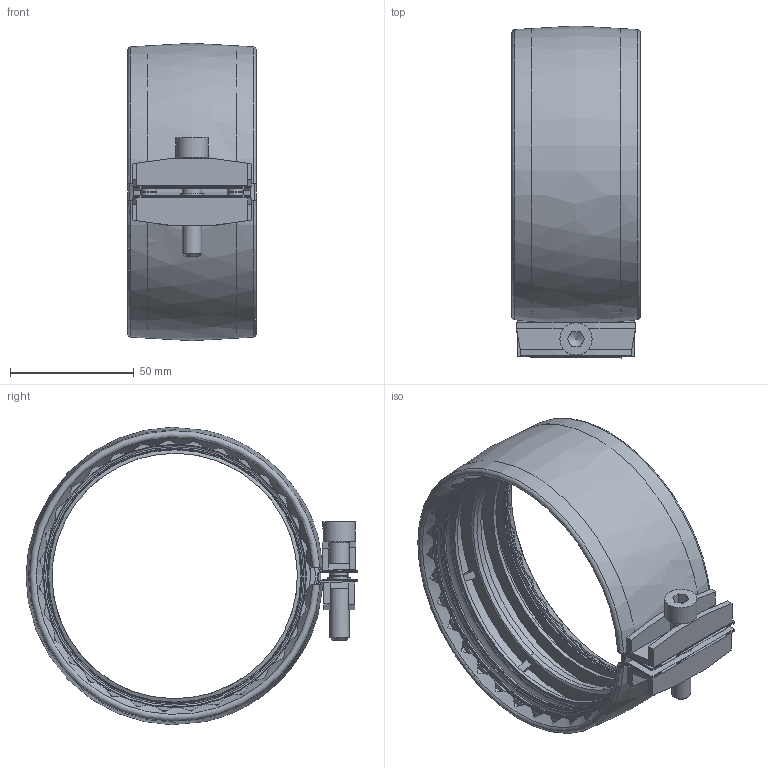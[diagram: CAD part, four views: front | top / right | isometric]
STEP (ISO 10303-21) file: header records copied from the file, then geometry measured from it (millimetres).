
FILE_DESCRIPTION(/* description */ (''),/* implementation_level */ '2;1');
FILE_NAME(/* name */ 'H:\Geberit-Teile\Export\Spannverbinder_neu\stp\310003.stp',/* time_stamp */ '2017-09-20T09:28:46+02:00',/* author */ ('seihe2'),/* organization */ (''),/* preprocessor_version */ 'ST-DEVELOPER v15.2',/* originating_system */ 'Autodesk Inventor 2014',/* authorisation */ '');
FILE_SCHEMA (('AUTOMOTIVE_DESIGN { 1 0 10303 214 3 1 1 }'));
Length unit declared in the file: millimetre
Products named in the file (1): 310003
Bounding box: 52 x 134.05 x 120.08 mm (x, y, z)
Volume: 81077.7 mm3; surface area: 114468.2 mm2
Topology: 5 solids, 5 shells, 444 faces, 1242 edges, 824 vertices
Faces by surface type: plane 261, bspline 83, cylinder 65, torus 19, cone 16
Full cylindrical faces by diameter (mm): 6.5 x4, 7.805 x1, 8 x1, 9.3 x1, 10.5 x4, 13 x1, 100.217 x1, 101.969 x2, 103.136 x2, 105.72 x4, 112.649 x2, 114.655 x1, 118 x1
Entity records: 16859 total; most frequent: CARTESIAN_POINT 5625, ORIENTED_EDGE 2370, DIRECTION 2129, EDGE_CURVE 1185, AXIS2_PLACEMENT_3D 862, VERTEX_POINT 812, EDGE_LOOP 521, STYLED_ITEM 448
